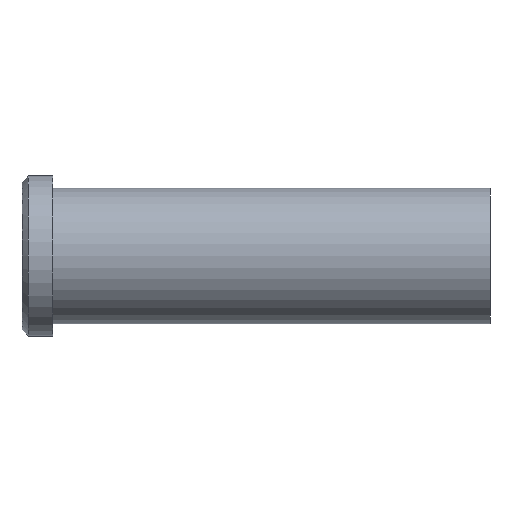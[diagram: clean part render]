
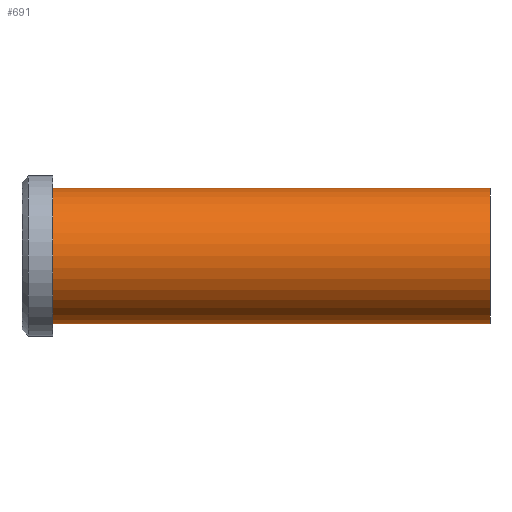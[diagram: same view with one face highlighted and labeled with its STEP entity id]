
A CAD part, front view. The second image highlights one B-rep face of the part: STEP entity #691.
In plain terms, the highlighted cylindrical face has radius 11 mm (diameter 22 mm), a partial arc.
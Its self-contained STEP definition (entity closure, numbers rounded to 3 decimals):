
#501=CARTESIAN_POINT('Vertex',(0.,0.,-11.)) ;
#506=CARTESIAN_POINT('Axis2P3D Location',(0.,0.,0.)) ;
#510=CARTESIAN_POINT('Vertex',(0.,-11.,0.)) ;
#513=CARTESIAN_POINT('Axis2P3D Location',(0.,0.,0.)) ;
#517=CARTESIAN_POINT('Vertex',(0.,0.,11.)) ;
#631=CARTESIAN_POINT('Line Origine',(71.,0.,11.)) ;
#635=CARTESIAN_POINT('Vertex',(71.,0.,11.)) ;
#649=CARTESIAN_POINT('Vertex',(71.,0.,-11.)) ;
#652=CARTESIAN_POINT('Line Origine',(71.,0.,-11.)) ;
#666=CARTESIAN_POINT('Axis2P3D Location',(71.,0.,0.)) ;
#671=CARTESIAN_POINT('Axis2P3D Location',(71.,0.,0.)) ;
#675=CARTESIAN_POINT('Vertex',(71.,-11.,0.)) ;
#678=CARTESIAN_POINT('Axis2P3D Location',(71.,0.,0.)) ;
#507=DIRECTION('Axis2P3D Direction',(1.,0.,-0.)) ;
#514=DIRECTION('Axis2P3D Direction',(1.,0.,-0.)) ;
#632=DIRECTION('Vector Direction',(-1.,0.,0.)) ;
#653=DIRECTION('Vector Direction',(-1.,0.,0.)) ;
#667=DIRECTION('Axis2P3D Direction',(-1.,-0.,-0.)) ;
#668=DIRECTION('Axis2P3D XDirection',(0.,0.,-1.)) ;
#672=DIRECTION('Axis2P3D Direction',(-1.,-0.,-0.)) ;
#679=DIRECTION('Axis2P3D Direction',(-1.,-0.,-0.)) ;
#508=AXIS2_PLACEMENT_3D('Circle Axis2P3D',#506,#507,$) ;
#515=AXIS2_PLACEMENT_3D('Circle Axis2P3D',#513,#514,$) ;
#669=AXIS2_PLACEMENT_3D('Cylinder Axis2P3D',#666,#667,#668) ;
#673=AXIS2_PLACEMENT_3D('Circle Axis2P3D',#671,#672,$) ;
#680=AXIS2_PLACEMENT_3D('Circle Axis2P3D',#678,#679,$) ;
#684=ORIENTED_EDGE('',*,*,#656,.T.) ;
#685=ORIENTED_EDGE('',*,*,#677,.F.) ;
#686=ORIENTED_EDGE('',*,*,#682,.F.) ;
#687=ORIENTED_EDGE('',*,*,#637,.T.) ;
#688=ORIENTED_EDGE('',*,*,#519,.T.) ;
#689=ORIENTED_EDGE('',*,*,#512,.T.) ;
#633=VECTOR('Line Direction',#632,1.) ;
#654=VECTOR('Line Direction',#653,1.) ;
#691=ADVANCED_FACE('353-16X76',(#690),#670,.T.) ;
#509=CIRCLE('generated circle',#508,11.) ;
#516=CIRCLE('generated circle',#515,11.) ;
#674=CIRCLE('generated circle',#673,11.) ;
#681=CIRCLE('generated circle',#680,11.) ;
#670=CYLINDRICAL_SURFACE('generated cylinder',#669,11.) ;
#512=EDGE_CURVE('',#511,#502,#509,.T.) ;
#519=EDGE_CURVE('',#518,#511,#516,.T.) ;
#637=EDGE_CURVE('',#636,#518,#634,.T.) ;
#656=EDGE_CURVE('',#502,#650,#655,.F.) ;
#677=EDGE_CURVE('',#676,#650,#674,.F.) ;
#682=EDGE_CURVE('',#636,#676,#681,.F.) ;
#683=EDGE_LOOP('',(#684,#685,#686,#687,#688,#689)) ;
#690=FACE_OUTER_BOUND('',#683,.T.) ;
#634=LINE('Line',#631,#633) ;
#655=LINE('Line',#652,#654) ;
#502=VERTEX_POINT('',#501) ;
#511=VERTEX_POINT('',#510) ;
#518=VERTEX_POINT('',#517) ;
#636=VERTEX_POINT('',#635) ;
#650=VERTEX_POINT('',#649) ;
#676=VERTEX_POINT('',#675) ;
